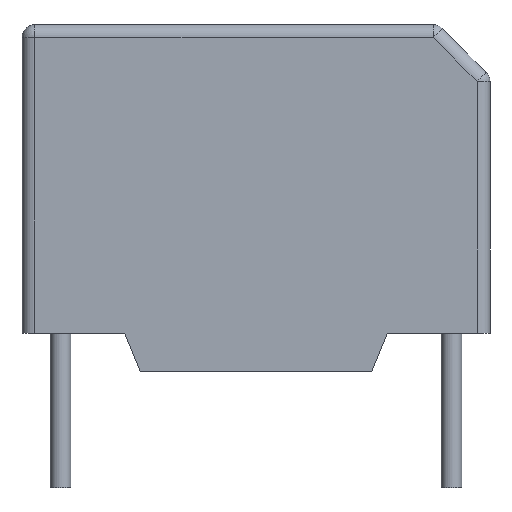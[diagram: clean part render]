
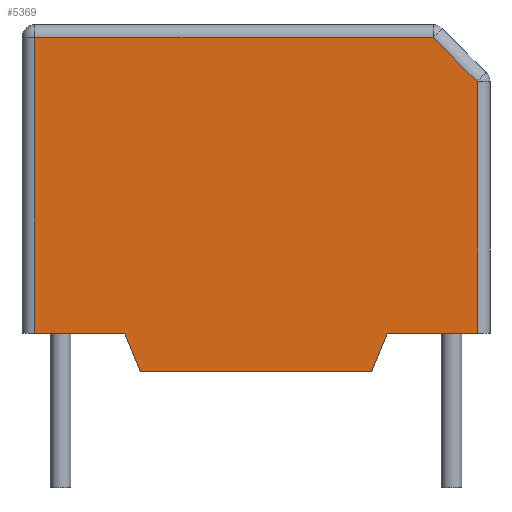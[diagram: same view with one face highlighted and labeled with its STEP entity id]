
A CAD part, left-side view. The second image highlights one B-rep face of the part: STEP entity #5369.
In plain terms, the highlighted planar face has unit normal (-1, 0, 0).
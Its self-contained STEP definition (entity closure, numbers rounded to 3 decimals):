
#5161=CARTESIAN_POINT('',(-4.4,-6.893,6.25));
#5162=VERTEX_POINT('',#5161);
#5170=CARTESIAN_POINT('',(-4.4,-8.6,4.543));
#5171=VERTEX_POINT('',#5170);
#5172=CARTESIAN_POINT('',(-4.4,-6.893,6.25));
#5173=DIRECTION('',(0.0,-0.707,-0.707));
#5174=VECTOR('',#5173,2.414);
#5175=LINE('',#5172,#5174);
#5176=EDGE_CURVE('',#5162,#5171,#5175,.T.);
#5280=CARTESIAN_POINT('',(-4.4,-8.6,-5.25));
#5281=VERTEX_POINT('',#5280);
#5282=CARTESIAN_POINT('',(-4.4,-8.6,4.543));
#5283=DIRECTION('',(0.0,0.0,-1.0));
#5284=VECTOR('',#5283,9.793);
#5285=LINE('',#5282,#5284);
#5286=EDGE_CURVE('',#5171,#5281,#5285,.T.);
#5306=CARTESIAN_POINT('',(-4.4,9.1,0.0));
#5307=DIRECTION('',(-1.0,0.0,0.0));
#5308=DIRECTION('',(0.0,-1.0,0.0));
#5309=AXIS2_PLACEMENT_3D('',#5306,#5307,#5308);
#5310=PLANE('',#5309);
#5311=ORIENTED_EDGE('',*,*,#5176,.F.);
#5312=CARTESIAN_POINT('',(-4.4,8.6,6.25));
#5313=VERTEX_POINT('',#5312);
#5314=CARTESIAN_POINT('',(-4.4,8.6,6.25));
#5315=DIRECTION('',(0.0,-1.0,0.0));
#5316=VECTOR('',#5315,15.493);
#5317=LINE('',#5314,#5316);
#5318=EDGE_CURVE('',#5313,#5162,#5317,.T.);
#5319=ORIENTED_EDGE('',*,*,#5318,.F.);
#5320=CARTESIAN_POINT('',(-4.4,8.6,-5.25));
#5321=VERTEX_POINT('',#5320);
#5322=CARTESIAN_POINT('',(-4.4,8.6,-5.25));
#5323=DIRECTION('',(0.0,0.0,1.0));
#5324=VECTOR('',#5323,11.5);
#5325=LINE('',#5322,#5324);
#5326=EDGE_CURVE('',#5321,#5313,#5325,.T.);
#5327=ORIENTED_EDGE('',*,*,#5326,.F.);
#5328=CARTESIAN_POINT('',(-4.4,5.106,-5.25));
#5329=VERTEX_POINT('',#5328);
#5330=CARTESIAN_POINT('',(-4.4,8.6,-5.25));
#5331=DIRECTION('',(0.0,-1.0,0.0));
#5332=VECTOR('',#5331,3.494);
#5333=LINE('',#5330,#5332);
#5334=EDGE_CURVE('',#5321,#5329,#5333,.T.);
#5335=ORIENTED_EDGE('',*,*,#5334,.T.);
#5336=CARTESIAN_POINT('',(-4.4,4.5,-6.75));
#5337=VERTEX_POINT('',#5336);
#5338=CARTESIAN_POINT('',(-4.4,5.106,-5.25));
#5339=DIRECTION('',(0.0,-0.375,-0.927));
#5340=VECTOR('',#5339,1.618);
#5341=LINE('',#5338,#5340);
#5342=EDGE_CURVE('',#5329,#5337,#5341,.T.);
#5343=ORIENTED_EDGE('',*,*,#5342,.T.);
#5344=CARTESIAN_POINT('',(-4.4,-4.5,-6.75));
#5345=VERTEX_POINT('',#5344);
#5346=CARTESIAN_POINT('',(-4.4,-4.5,-6.75));
#5347=DIRECTION('',(0.0,1.0,0.0));
#5348=VECTOR('',#5347,9.0);
#5349=LINE('',#5346,#5348);
#5350=EDGE_CURVE('',#5345,#5337,#5349,.T.);
#5351=ORIENTED_EDGE('',*,*,#5350,.F.);
#5352=CARTESIAN_POINT('',(-4.4,-5.106,-5.25));
#5353=VERTEX_POINT('',#5352);
#5354=CARTESIAN_POINT('',(-4.4,-4.5,-6.75));
#5355=DIRECTION('',(0.0,-0.375,0.927));
#5356=VECTOR('',#5355,1.618);
#5357=LINE('',#5354,#5356);
#5358=EDGE_CURVE('',#5345,#5353,#5357,.T.);
#5359=ORIENTED_EDGE('',*,*,#5358,.T.);
#5360=CARTESIAN_POINT('',(-4.4,-5.106,-5.25));
#5361=DIRECTION('',(0.0,-1.0,0.0));
#5362=VECTOR('',#5361,3.494);
#5363=LINE('',#5360,#5362);
#5364=EDGE_CURVE('',#5353,#5281,#5363,.T.);
#5365=ORIENTED_EDGE('',*,*,#5364,.T.);
#5366=ORIENTED_EDGE('',*,*,#5286,.F.);
#5367=EDGE_LOOP('',(#5311,#5319,#5327,#5335,#5343,#5351,#5359,#5365,#5366));
#5368=FACE_OUTER_BOUND('',#5367,.T.);
#5369=ADVANCED_FACE('',(#5368),#5310,.T.);
